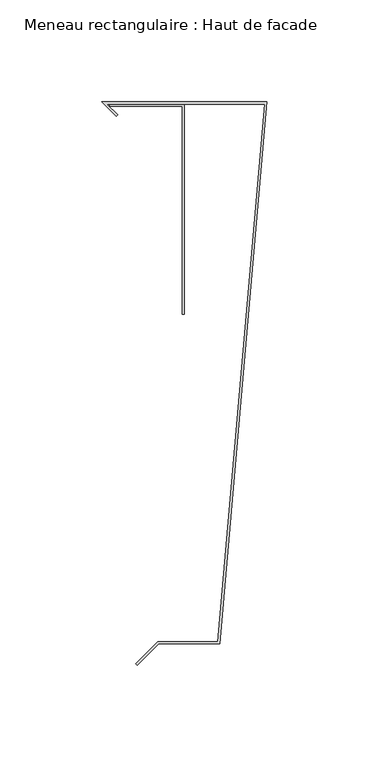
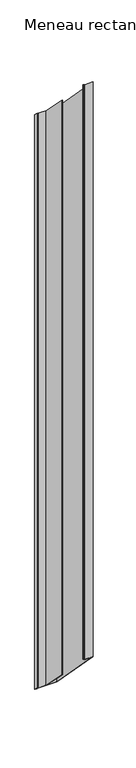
"""IFC4 building model written with IfcOpenShell, lengths in millimetres: member geometry, Meneau rectangulaire : Haut de facade."""

from ifc_helpers import new_model, si_unit, origin, place, context, project, spatial, faceted_brep, source, transform, mapped, element, save


def meneau_rectangulaire_haut_de_facade_496d0ec1(model_context):
    return source(origin(), model_context, "Body", "Brep", [
        faceted_brep([(-53.5626719, -160.703755, 160.703755), (-24.0647895, -160.703755, 160.703755), (-24.0647895, -160.703755, -2039.296245), (-53.5626719, -160.703755, -2039.296245), (-64.4621669, -171.6032499, 171.6032499), (-64.4621669, -171.6032499, -2028.3967501), (-63.7550601, -172.3103567, 172.3103567), (-63.7550601, -172.3103567, -2027.6896433), (-53.1484584, -161.703755, 161.703755), (-53.1484584, -161.703755, -2038.296245), (-23.1484584, -161.703755, 161.703755), (-23.1484584, -161.703755, -2038.296245), (0.0, 104.2, -104.2), (0.0, 104.2, -2304.2), (-81.0, 104.2, -104.2), (-81.0, 104.2, -2304.2), (-73.9289322, 97.1289322, -97.1289322), (-73.9289322, 97.1289322, -2297.1289322), (-73.2218254, 97.836039, -97.836039), (-73.2218254, 97.836039, -2297.836039), (-78.5857864, 103.2, -103.2), (-78.5857864, 103.2, -2303.2), (-1.0913085, 103.2, -103.2), (-1.0913085, 103.2, -2303.2)], [[[0, 1, 2, 3]], [[4, 0, 3, 5]], [[6, 4, 5, 7]], [[8, 6, 7, 9]], [[10, 8, 9, 11]], [[12, 10, 11, 13]], [[14, 12, 13, 15]], [[16, 14, 15, 17]], [[18, 16, 17, 19]], [[20, 18, 19, 21]], [[22, 20, 21, 23]], [[1, 22, 23, 2]], [[1, 0, 4, 6, 8, 10, 12, 14, 16, 18, 20, 22]], [[2, 23, 21, 19, 17, 15, 13, 11, 9, 7, 5, 3]]]),
        faceted_brep([(-77.0752814, 102.9846816, -102.9846816), (-40.5477541, 102.9846816, -102.9846816), (-40.5477541, 102.9846816, -2302.9846816), (-77.0752814, 102.9846816, -2302.9846816), (-77.0752814, 101.9846816, -101.9846816), (-77.0752814, 101.9846816, -2301.9846816), (-41.5477541, 101.9846816, -101.9846816), (-41.5477541, 101.9846816, -2301.9846816), (-41.5477541, 0.0384227, -0.0384227), (-41.5477541, 0.0384227, -2200.0384227), (-40.5477541, 0.0384227, -0.0384227), (-40.5477541, 0.0384227, -2200.0384227)], [[[0, 1, 2, 3]], [[4, 0, 3, 5]], [[6, 4, 5, 7]], [[8, 6, 7, 9]], [[10, 8, 9, 11]], [[1, 10, 11, 2]], [[1, 0, 4, 6, 8, 10]], [[2, 11, 9, 7, 5, 3]]]),
    ])


if __name__ == "__main__":
    model = new_model("IFC4")
    model_context = context("Model", 3, world=origin())
    ifc_project = project(units=[si_unit("LENGTHUNIT", "METRE", prefix="MILLI")], contexts=[model_context])
    site = spatial("IfcSite", under=ifc_project)
    building = spatial("IfcBuilding", under=site)
    placement = place(None, origin())
    meneau_rectangulaire_haut_de_facade_shape = meneau_rectangulaire_haut_de_facade_496d0ec1(model_context)
    element("IfcMember", 1, ObjectType="Meneau rectangulaire : Haut de facade", at=placement, inside=building, context=model_context, shape_type="MappedRepresentation", body=[
        mapped(meneau_rectangulaire_haut_de_facade_shape, transform((0.0, 0.0, 0.0), x_axis=(1.0, 0.0, 0.0), y_axis=(0.0, 1.0, 0.0), z_axis=(0.0, 0.0, 1.0))),
    ])
    save(model, "model.ifc")
